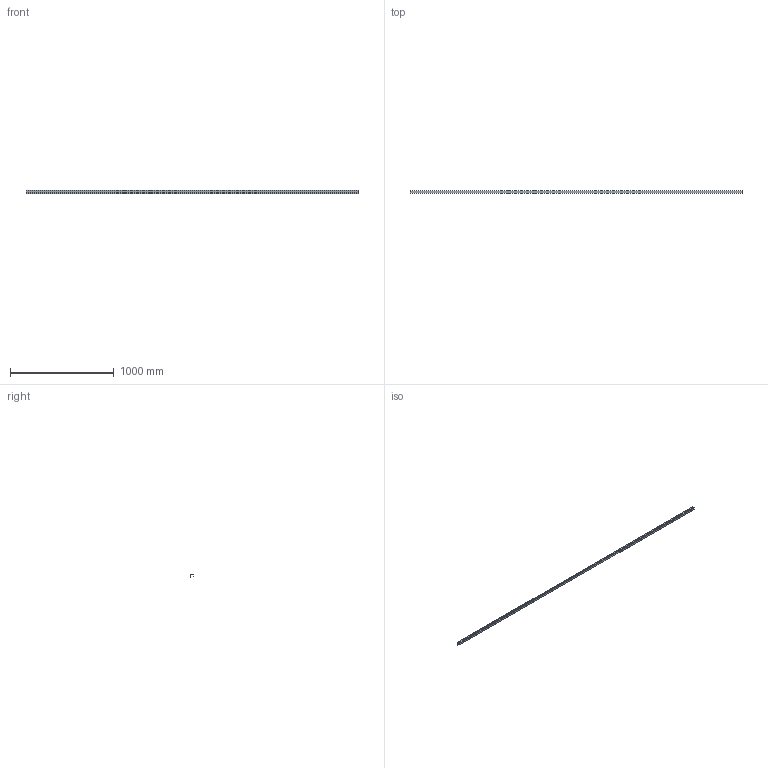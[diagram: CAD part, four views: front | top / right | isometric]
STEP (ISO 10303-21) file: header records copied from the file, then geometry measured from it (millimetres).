
FILE_DESCRIPTION( ( '' ), '1' );
FILE_NAME( 'D:/temp/hettich_stp/hettich/4_folding_sliding/4.6_accessories/runner_guide_profile/70985.stp', '2013-02-26T10:24:28', ( '' ), ( '' ), ' ', ' ', ' ' );
FILE_SCHEMA( ( 'automotive_design' ) );
Length unit declared in the file: millimetre
Products named in the file (1): 1
Bounding box: 3200 x 23.6 x 36 mm (x, y, z)
Volume: 425273.8 mm3; surface area: 492207.3 mm2
Topology: 1 solids, 1 shells, 27 faces, 75 edges, 50 vertices
Faces by surface type: plane 20, cylinder 7
Entity records: 1728 total; most frequent: STYLED_ITEM 153, PRESENTATION_STYLE_ASSIGNMENT 153, CARTESIAN_POINT 153, COLOUR_RGB 153, ORIENTED_EDGE 150, DIRECTION 145, EDGE_CURVE 75, CURVE_STYLE 75
